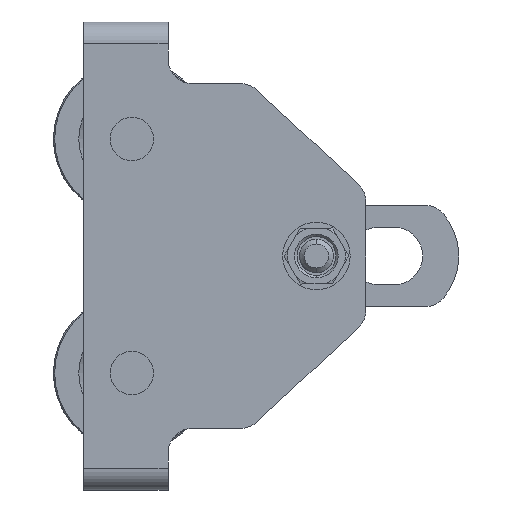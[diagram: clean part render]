
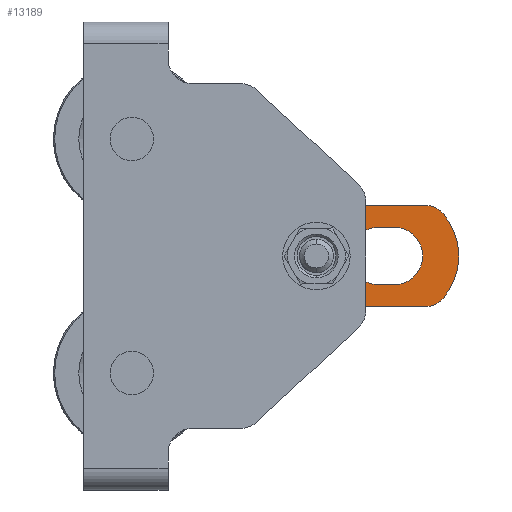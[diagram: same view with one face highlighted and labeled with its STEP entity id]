
A CAD part, left-side view. The second image highlights one B-rep face of the part: STEP entity #13189.
In plain terms, the highlighted planar face has unit normal (-1, 0, 0) as drawn and (0, 0, 1) by its records, which use the part's own axes.
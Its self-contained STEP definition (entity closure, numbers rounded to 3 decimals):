
#695 = LINE ( 'NONE', #7436, #5854 ) ;
#717 = CARTESIAN_POINT ( 'NONE',  ( -21., 8.66, 6. ) ) ;
#761 = DIRECTION ( 'NONE',  ( 0., -1., 0. ) ) ;
#805 = DIRECTION ( 'NONE',  ( 0., 1., 0. ) ) ;
#871 = VERTEX_POINT ( 'NONE', #5279 ) ;
#913 = DIRECTION ( 'NONE',  ( 0., 0., 1. ) ) ;
#925 = ORIENTED_EDGE ( 'NONE', *, *, #13305, .T. ) ;
#958 = CIRCLE ( 'NONE', #14929, 12. ) ;
#994 = AXIS2_PLACEMENT_3D ( 'NONE', #14666, #3027, #14594 ) ;
#1151 = LINE ( 'NONE', #3011, #13248 ) ;
#1449 = DIRECTION ( 'NONE',  ( 0., 0., 1. ) ) ;
#1716 = AXIS2_PLACEMENT_3D ( 'NONE', #13034, #16275, #9949 ) ;
#2178 = EDGE_LOOP ( 'NONE', ( #18974, #16868 ) ) ;
#2231 = AXIS2_PLACEMENT_3D ( 'NONE', #20987, #12754, #2891 ) ;
#2253 = VERTEX_POINT ( 'NONE', #21008 ) ;
#2301 = DIRECTION ( 'NONE',  ( 0., 0., 1. ) ) ;
#2429 = VERTEX_POINT ( 'NONE', #16629 ) ;
#2582 = ORIENTED_EDGE ( 'NONE', *, *, #11152, .T. ) ;
#2891 = DIRECTION ( 'NONE',  ( 1., 0., 0. ) ) ;
#2999 = VERTEX_POINT ( 'NONE', #18913 ) ;
#3011 = CARTESIAN_POINT ( 'NONE',  ( 21., 8.66, 6. ) ) ;
#3027 = DIRECTION ( 'NONE',  ( 0., 0., 1. ) ) ;
#3093 = CIRCLE ( 'NONE', #7869, 10. ) ;
#3205 = DIRECTION ( 'NONE',  ( 0., 0., 1. ) ) ;
#3378 = ORIENTED_EDGE ( 'NONE', *, *, #17333, .T. ) ;
#3520 = CARTESIAN_POINT ( 'NONE',  ( -21., -44.961, 6. ) ) ;
#3579 = EDGE_CURVE ( 'NONE', #16650, #2429, #5001, .T. ) ;
#3639 = ORIENTED_EDGE ( 'NONE', *, *, #21135, .F. ) ;
#3716 = CARTESIAN_POINT ( 'NONE',  ( 21., 8.66, 6. ) ) ;
#3733 = CIRCLE ( 'NONE', #9581, 10. ) ;
#4089 = VERTEX_POINT ( 'NONE', #11656 ) ;
#4345 = ORIENTED_EDGE ( 'NONE', *, *, #21189, .T. ) ;
#4698 = DIRECTION ( 'NONE',  ( 1., 0., 0. ) ) ;
#4779 = DIRECTION ( 'NONE',  ( 1., 0., 0. ) ) ;
#4891 = CIRCLE ( 'NONE', #12151, 27. ) ;
#4986 = VECTOR ( 'NONE', #11370, 1000. ) ;
#5001 = CIRCLE ( 'NONE', #12851, 8.5 ) ;
#5075 = AXIS2_PLACEMENT_3D ( 'NONE', #12256, #7518, #12394 ) ;
#5096 = DIRECTION ( 'NONE',  ( 1., 0., 0. ) ) ;
#5279 = CARTESIAN_POINT ( 'NONE',  ( 18.857, 14.846, 6. ) ) ;
#5351 = VERTEX_POINT ( 'NONE', #14285 ) ;
#5501 = EDGE_CURVE ( 'NONE', #8010, #14364, #18131, .T. ) ;
#5854 = VECTOR ( 'NONE', #805, 1000. ) ;
#6520 = ORIENTED_EDGE ( 'NONE', *, *, #17688, .F. ) ;
#6608 = CARTESIAN_POINT ( 'NONE',  ( 0., -32., 6. ) ) ;
#6695 = VECTOR ( 'NONE', #761, 1000. ) ;
#7330 = CARTESIAN_POINT ( 'NONE',  ( -11., -44.961, 6. ) ) ;
#7436 = CARTESIAN_POINT ( 'NONE',  ( 12., -26., 6. ) ) ;
#7454 = CARTESIAN_POINT ( 'NONE',  ( -12., -26., 6. ) ) ;
#7518 = DIRECTION ( 'NONE',  ( 0., 0., 1. ) ) ;
#7869 = AXIS2_PLACEMENT_3D ( 'NONE', #14734, #1449, #4698 ) ;
#7881 = VERTEX_POINT ( 'NONE', #3716 ) ;
#7882 = CARTESIAN_POINT ( 'NONE',  ( -12., -32., 6. ) ) ;
#8010 = VERTEX_POINT ( 'NONE', #18991 ) ;
#8092 = CARTESIAN_POINT ( 'NONE',  ( -18.857, 14.846, 6. ) ) ;
#8100 = CARTESIAN_POINT ( 'NONE',  ( 21., -44.961, 6. ) ) ;
#8237 = CIRCLE ( 'NONE', #1716, 8.5 ) ;
#8604 = PLANE ( 'NONE',  #9873 ) ;
#8916 = DIRECTION ( 'NONE',  ( -1., 0., 0. ) ) ;
#9508 = EDGE_CURVE ( 'NONE', #5351, #4089, #18265, .T. ) ;
#9581 = AXIS2_PLACEMENT_3D ( 'NONE', #7330, #913, #8916 ) ;
#9873 = AXIS2_PLACEMENT_3D ( 'NONE', #10527, #20352, #18472 ) ;
#9949 = DIRECTION ( 'NONE',  ( 1., 0., 0. ) ) ;
#10384 = FACE_BOUND ( 'NONE', #2178, .T. ) ;
#10505 = CARTESIAN_POINT ( 'NONE',  ( 0., 0., 6. ) ) ;
#10527 = CARTESIAN_POINT ( 'NONE',  ( -11., 8.66, 6. ) ) ;
#10662 = DIRECTION ( 'NONE',  ( 0., 0., 1. ) ) ;
#10731 = CARTESIAN_POINT ( 'NONE',  ( 0., 0., 6. ) ) ;
#10907 = FACE_OUTER_BOUND ( 'NONE', #16878, .T. ) ;
#11152 = EDGE_CURVE ( 'NONE', #18649, #7881, #1151, .T. ) ;
#11370 = DIRECTION ( 'NONE',  ( 0., -1., 0. ) ) ;
#11656 = CARTESIAN_POINT ( 'NONE',  ( -12., -26., 6. ) ) ;
#11760 = ORIENTED_EDGE ( 'NONE', *, *, #11812, .T. ) ;
#11791 = CIRCLE ( 'NONE', #994, 10. ) ;
#11812 = EDGE_CURVE ( 'NONE', #14364, #20160, #3733, .T. ) ;
#11951 = CARTESIAN_POINT ( 'NONE',  ( -17.471, -52.586, 6. ) ) ;
#12079 = VERTEX_POINT ( 'NONE', #7882 ) ;
#12151 = AXIS2_PLACEMENT_3D ( 'NONE', #6608, #3205, #5096 ) ;
#12256 = CARTESIAN_POINT ( 'NONE',  ( -11., 8.66, 6. ) ) ;
#12334 = LINE ( 'NONE', #7454, #6695 ) ;
#12394 = DIRECTION ( 'NONE',  ( -1., 0., 0. ) ) ;
#12754 = DIRECTION ( 'NONE',  ( 0., 0., 1. ) ) ;
#12851 = AXIS2_PLACEMENT_3D ( 'NONE', #10731, #10662, #15543 ) ;
#13030 = DIRECTION ( 'NONE',  ( 0., 0., 1. ) ) ;
#13034 = CARTESIAN_POINT ( 'NONE',  ( 0., 0., 6. ) ) ;
#13189 = ADVANCED_FACE ( 'NONE', ( #10384, #10907, #14475 ), #8604, .F. ) ;
#13248 = VECTOR ( 'NONE', #16032, 1000. ) ;
#13305 = EDGE_CURVE ( 'NONE', #20008, #8010, #16280, .T. ) ;
#13577 = AXIS2_PLACEMENT_3D ( 'NONE', #10505, #2301, #17279 ) ;
#14058 = ORIENTED_EDGE ( 'NONE', *, *, #20726, .F. ) ;
#14285 = CARTESIAN_POINT ( 'NONE',  ( 12., -26., 6. ) ) ;
#14364 = VERTEX_POINT ( 'NONE', #3520 ) ;
#14475 = FACE_BOUND ( 'NONE', #18833, .T. ) ;
#14594 = DIRECTION ( 'NONE',  ( 1., 0., 0. ) ) ;
#14666 = CARTESIAN_POINT ( 'NONE',  ( 11., -44.961, 6. ) ) ;
#14734 = CARTESIAN_POINT ( 'NONE',  ( 11., 8.66, 6. ) ) ;
#14929 = AXIS2_PLACEMENT_3D ( 'NONE', #21128, #13030, #4779 ) ;
#15506 = ORIENTED_EDGE ( 'NONE', *, *, #18053, .T. ) ;
#15543 = DIRECTION ( 'NONE',  ( 1., 0., 0. ) ) ;
#15846 = EDGE_CURVE ( 'NONE', #7881, #871, #3093, .T. ) ;
#16032 = DIRECTION ( 'NONE',  ( 0., 1., 0. ) ) ;
#16275 = DIRECTION ( 'NONE',  ( 0., 0., 1. ) ) ;
#16280 = CIRCLE ( 'NONE', #5075, 10. ) ;
#16629 = CARTESIAN_POINT ( 'NONE',  ( 8.5, 0., 6. ) ) ;
#16650 = VERTEX_POINT ( 'NONE', #19572 ) ;
#16868 = ORIENTED_EDGE ( 'NONE', *, *, #19985, .F. ) ;
#16878 = EDGE_LOOP ( 'NONE', ( #925, #19211, #11760, #3378, #15506, #2582, #20919, #4345 ) ) ;
#16889 = CIRCLE ( 'NONE', #13577, 24. ) ;
#17160 = ORIENTED_EDGE ( 'NONE', *, *, #9508, .F. ) ;
#17279 = DIRECTION ( 'NONE',  ( 1., 0., 0. ) ) ;
#17333 = EDGE_CURVE ( 'NONE', #20160, #2999, #4891, .T. ) ;
#17688 = EDGE_CURVE ( 'NONE', #4089, #12079, #12334, .T. ) ;
#18053 = EDGE_CURVE ( 'NONE', #2999, #18649, #11791, .T. ) ;
#18131 = LINE ( 'NONE', #717, #4986 ) ;
#18265 = CIRCLE ( 'NONE', #2231, 12. ) ;
#18472 = DIRECTION ( 'NONE',  ( -1., 0., 0. ) ) ;
#18649 = VERTEX_POINT ( 'NONE', #8100 ) ;
#18833 = EDGE_LOOP ( 'NONE', ( #17160, #3639, #14058, #6520 ) ) ;
#18913 = CARTESIAN_POINT ( 'NONE',  ( 17.471, -52.586, 6. ) ) ;
#18974 = ORIENTED_EDGE ( 'NONE', *, *, #3579, .F. ) ;
#18991 = CARTESIAN_POINT ( 'NONE',  ( -21., 8.66, 6. ) ) ;
#19211 = ORIENTED_EDGE ( 'NONE', *, *, #5501, .T. ) ;
#19572 = CARTESIAN_POINT ( 'NONE',  ( -8.5, 0., 6. ) ) ;
#19985 = EDGE_CURVE ( 'NONE', #2429, #16650, #8237, .T. ) ;
#20008 = VERTEX_POINT ( 'NONE', #8092 ) ;
#20160 = VERTEX_POINT ( 'NONE', #11951 ) ;
#20352 = DIRECTION ( 'NONE',  ( 0., 0., -1. ) ) ;
#20726 = EDGE_CURVE ( 'NONE', #12079, #2253, #958, .T. ) ;
#20919 = ORIENTED_EDGE ( 'NONE', *, *, #15846, .T. ) ;
#20987 = CARTESIAN_POINT ( 'NONE',  ( 0., -26., 6. ) ) ;
#21008 = CARTESIAN_POINT ( 'NONE',  ( 12., -32., 6. ) ) ;
#21128 = CARTESIAN_POINT ( 'NONE',  ( 0., -32., 6. ) ) ;
#21135 = EDGE_CURVE ( 'NONE', #2253, #5351, #695, .T. ) ;
#21189 = EDGE_CURVE ( 'NONE', #871, #20008, #16889, .T. ) ;
